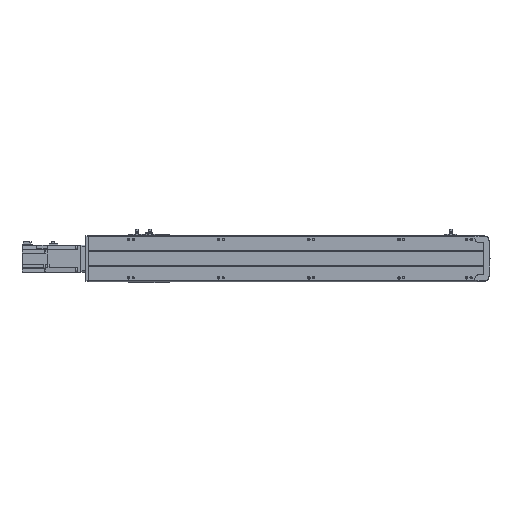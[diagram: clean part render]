
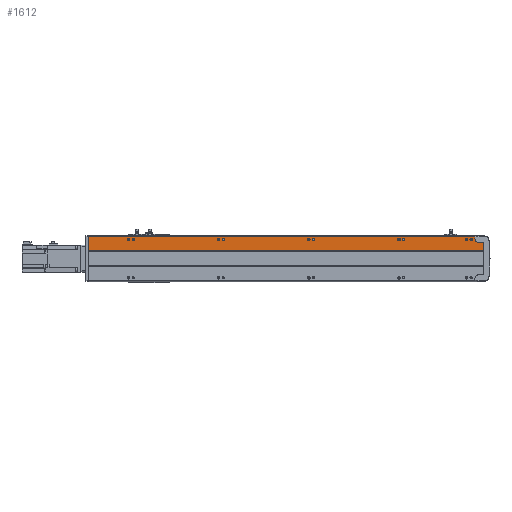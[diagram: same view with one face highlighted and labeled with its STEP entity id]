
A CAD part, front view. The second image highlights one B-rep face of the part: STEP entity #1612.
In plain terms, the highlighted planar face has unit normal (0, -1, 0).
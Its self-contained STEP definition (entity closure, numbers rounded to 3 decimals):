
#1612 = ADVANCED_FACE( '', ( #3574, #3575, #3576, #3577, #3578, #3579, #3580, #3581, #3582, #3583, #3584 ), #3585, .F. );
#3574 = FACE_BOUND( '', #5947, .T. );
#3575 = FACE_BOUND( '', #5948, .T. );
#3576 = FACE_BOUND( '', #5949, .T. );
#3577 = FACE_BOUND( '', #5950, .T. );
#3578 = FACE_BOUND( '', #5951, .T. );
#3579 = FACE_BOUND( '', #5952, .T. );
#3580 = FACE_BOUND( '', #5953, .T. );
#3581 = FACE_BOUND( '', #5954, .T. );
#3582 = FACE_BOUND( '', #5955, .T. );
#3583 = FACE_BOUND( '', #5956, .T. );
#3584 = FACE_OUTER_BOUND( '', #5957, .T. );
#3585 = PLANE( '', #5958 );
#5947 = EDGE_LOOP( '', ( #10377 ) );
#5948 = EDGE_LOOP( '', ( #10378 ) );
#5949 = EDGE_LOOP( '', ( #10379 ) );
#5950 = EDGE_LOOP( '', ( #10380 ) );
#5951 = EDGE_LOOP( '', ( #10381 ) );
#5952 = EDGE_LOOP( '', ( #10382 ) );
#5953 = EDGE_LOOP( '', ( #10383 ) );
#5954 = EDGE_LOOP( '', ( #10384 ) );
#5955 = EDGE_LOOP( '', ( #10385 ) );
#5956 = EDGE_LOOP( '', ( #10386 ) );
#5957 = EDGE_LOOP( '', ( #10387, #10388, #10389, #10390, #10391, #10392, #10393 ) );
#5958 = AXIS2_PLACEMENT_3D( '', #10394, #10395, #10396 );
#10377 = ORIENTED_EDGE( '', *, *, #15242, .F. );
#10378 = ORIENTED_EDGE( '', *, *, #14867, .F. );
#10379 = ORIENTED_EDGE( '', *, *, #15243, .F. );
#10380 = ORIENTED_EDGE( '', *, *, #15244, .F. );
#10381 = ORIENTED_EDGE( '', *, *, #15245, .F. );
#10382 = ORIENTED_EDGE( '', *, *, #15246, .F. );
#10383 = ORIENTED_EDGE( '', *, *, #15247, .F. );
#10384 = ORIENTED_EDGE( '', *, *, #15248, .F. );
#10385 = ORIENTED_EDGE( '', *, *, #15249, .F. );
#10386 = ORIENTED_EDGE( '', *, *, #13941, .F. );
#10387 = ORIENTED_EDGE( '', *, *, #15250, .T. );
#10388 = ORIENTED_EDGE( '', *, *, #14158, .T. );
#10389 = ORIENTED_EDGE( '', *, *, #13781, .T. );
#10390 = ORIENTED_EDGE( '', *, *, #15251, .F. );
#10391 = ORIENTED_EDGE( '', *, *, #14591, .T. );
#10392 = ORIENTED_EDGE( '', *, *, #15252, .T. );
#10393 = ORIENTED_EDGE( '', *, *, #15253, .T. );
#10394 = CARTESIAN_POINT( '', ( 897., 0., 48.37 ) );
#10395 = DIRECTION( '', ( 0., 1., 0. ) );
#10396 = DIRECTION( '', ( 0., 0., 1. ) );
#13781 = EDGE_CURVE( '', #16478, #16476, #16479, .T. );
#13941 = EDGE_CURVE( '', #16763, #16763, #16764, .T. );
#14158 = EDGE_CURVE( '', #17132, #16478, #17135, .T. );
#14591 = EDGE_CURVE( '', #17836, #17846, #17848, .T. );
#14867 = EDGE_CURVE( '', #18265, #18265, #18266, .T. );
#15242 = EDGE_CURVE( '', #18800, #18800, #18801, .T. );
#15243 = EDGE_CURVE( '', #18802, #18802, #18803, .T. );
#15244 = EDGE_CURVE( '', #18804, #18804, #18805, .T. );
#15245 = EDGE_CURVE( '', #18806, #18806, #18807, .T. );
#15246 = EDGE_CURVE( '', #18808, #18808, #18809, .T. );
#15247 = EDGE_CURVE( '', #18810, #18810, #18811, .T. );
#15248 = EDGE_CURVE( '', #18812, #18812, #18813, .T. );
#15249 = EDGE_CURVE( '', #18814, #18814, #18815, .T. );
#15250 = EDGE_CURVE( '', #18816, #17132, #18817, .T. );
#15251 = EDGE_CURVE( '', #17836, #16476, #18818, .T. );
#15252 = EDGE_CURVE( '', #17846, #18819, #18820, .T. );
#15253 = EDGE_CURVE( '', #18819, #18816, #18821, .T. );
#16476 = VERTEX_POINT( '', #20373 );
#16478 = VERTEX_POINT( '', #20376 );
#16479 = LINE( '', #20377, #20378 );
#16763 = VERTEX_POINT( '', #20809 );
#16764 = CIRCLE( '', #20810, 2.75 );
#17132 = VERTEX_POINT( '', #21342 );
#17135 = LINE( '', #21346, #21347 );
#17836 = VERTEX_POINT( '', #22379 );
#17846 = VERTEX_POINT( '', #22394 );
#17848 = LINE( '', #22397, #22398 );
#18265 = VERTEX_POINT( '', #22989 );
#18266 = CIRCLE( '', #22990, 2.5 );
#18800 = VERTEX_POINT( '', #23822 );
#18801 = CIRCLE( '', #23823, 2.5 );
#18802 = VERTEX_POINT( '', #23824 );
#18803 = CIRCLE( '', #23825, 2.5 );
#18804 = VERTEX_POINT( '', #23826 );
#18805 = CIRCLE( '', #23827, 2.5 );
#18806 = VERTEX_POINT( '', #23828 );
#18807 = CIRCLE( '', #23829, 2.5 );
#18808 = VERTEX_POINT( '', #23830 );
#18809 = CIRCLE( '', #23831, 2.75 );
#18810 = VERTEX_POINT( '', #23832 );
#18811 = CIRCLE( '', #23833, 2.75 );
#18812 = VERTEX_POINT( '', #23834 );
#18813 = CIRCLE( '', #23835, 2.75 );
#18814 = VERTEX_POINT( '', #23836 );
#18815 = CIRCLE( '', #23837, 2.75 );
#18816 = VERTEX_POINT( '', #23838 );
#18817 = LINE( '', #23839, #23840 );
#18818 = LINE( '', #23841, #23842 );
#18819 = VERTEX_POINT( '', #23843 );
#18820 = LINE( '', #23844, #23845 );
#18821 = CIRCLE( '', #23846, 10. );
#20373 = CARTESIAN_POINT( '', ( 6., 0., 17. ) );
#20376 = CARTESIAN_POINT( '', ( 6., 0., 48.37 ) );
#20377 = CARTESIAN_POINT( '', ( 6., 0., 51. ) );
#20378 = VECTOR( '', #25608, 1000. );
#20809 = CARTESIAN_POINT( '', ( 845., 0., 39.75 ) );
#20810 = AXIS2_PLACEMENT_3D( '', #25801, #25802, #25803 );
#21342 = CARTESIAN_POINT( '', ( 863.5, 0., 48.37 ) );
#21346 = CARTESIAN_POINT( '', ( 897., 0., 48.37 ) );
#21347 = VECTOR( '', #26056, 1000. );
#22379 = CARTESIAN_POINT( '', ( 883.5, 0., 17. ) );
#22394 = CARTESIAN_POINT( '', ( 883.5, 0., 35.5 ) );
#22397 = CARTESIAN_POINT( '', ( 883.5, 0., -35.5 ) );
#22398 = VECTOR( '', #26592, 1000. );
#22989 = CARTESIAN_POINT( '', ( 705., 0., 40. ) );
#22990 = AXIS2_PLACEMENT_3D( '', #26893, #26894, #26895 );
#23822 = CARTESIAN_POINT( '', ( 105., 0., 40. ) );
#23823 = AXIS2_PLACEMENT_3D( '', #27332, #27333, #27334 );
#23824 = CARTESIAN_POINT( '', ( 505., 0., 40. ) );
#23825 = AXIS2_PLACEMENT_3D( '', #27335, #27336, #27337 );
#23826 = CARTESIAN_POINT( '', ( 305., 0., 40. ) );
#23827 = AXIS2_PLACEMENT_3D( '', #27338, #27339, #27340 );
#23828 = CARTESIAN_POINT( '', ( 855., 0., 40. ) );
#23829 = AXIS2_PLACEMENT_3D( '', #27341, #27342, #27343 );
#23830 = CARTESIAN_POINT( '', ( 95., 0., 39.75 ) );
#23831 = AXIS2_PLACEMENT_3D( '', #27344, #27345, #27346 );
#23832 = CARTESIAN_POINT( '', ( 695., 0., 39.75 ) );
#23833 = AXIS2_PLACEMENT_3D( '', #27347, #27348, #27349 );
#23834 = CARTESIAN_POINT( '', ( 495., 0., 39.75 ) );
#23835 = AXIS2_PLACEMENT_3D( '', #27350, #27351, #27352 );
#23836 = CARTESIAN_POINT( '', ( 295., 0., 39.75 ) );
#23837 = AXIS2_PLACEMENT_3D( '', #27353, #27354, #27355 );
#23838 = CARTESIAN_POINT( '', ( 863.5, 0., 45.5 ) );
#23839 = CARTESIAN_POINT( '', ( 863.5, 0., 45.5 ) );
#23840 = VECTOR( '', #27356, 1000. );
#23841 = CARTESIAN_POINT( '', ( 897., 0., 17. ) );
#23842 = VECTOR( '', #27357, 1000. );
#23843 = CARTESIAN_POINT( '', ( 873.5, 0., 35.5 ) );
#23844 = CARTESIAN_POINT( '', ( 883.5, 0., 35.5 ) );
#23845 = VECTOR( '', #27358, 1000. );
#23846 = AXIS2_PLACEMENT_3D( '', #27359, #27360, #27361 );
#25608 = DIRECTION( '', ( 0., 0., -1. ) );
#25801 = CARTESIAN_POINT( '', ( 845., 0., 42.5 ) );
#25802 = DIRECTION( '', ( 0., -1., 0. ) );
#25803 = DIRECTION( '', ( 0., 0., -1. ) );
#26056 = DIRECTION( '', ( -1., 0., 0. ) );
#26592 = DIRECTION( '', ( 0., 0., 1. ) );
#26893 = CARTESIAN_POINT( '', ( 705., 0., 42.5 ) );
#26894 = DIRECTION( '', ( 0., -1., 0. ) );
#26895 = DIRECTION( '', ( 0., 0., -1. ) );
#27332 = CARTESIAN_POINT( '', ( 105., 0., 42.5 ) );
#27333 = DIRECTION( '', ( 0., -1., 0. ) );
#27334 = DIRECTION( '', ( 0., 0., -1. ) );
#27335 = CARTESIAN_POINT( '', ( 505., 0., 42.5 ) );
#27336 = DIRECTION( '', ( 0., -1., 0. ) );
#27337 = DIRECTION( '', ( 0., 0., -1. ) );
#27338 = CARTESIAN_POINT( '', ( 305., 0., 42.5 ) );
#27339 = DIRECTION( '', ( 0., -1., 0. ) );
#27340 = DIRECTION( '', ( 0., 0., -1. ) );
#27341 = CARTESIAN_POINT( '', ( 855., 0., 42.5 ) );
#27342 = DIRECTION( '', ( 0., -1., 0. ) );
#27343 = DIRECTION( '', ( 0., 0., -1. ) );
#27344 = CARTESIAN_POINT( '', ( 95., 0., 42.5 ) );
#27345 = DIRECTION( '', ( 0., -1., 0. ) );
#27346 = DIRECTION( '', ( 0., 0., -1. ) );
#27347 = CARTESIAN_POINT( '', ( 695., 0., 42.5 ) );
#27348 = DIRECTION( '', ( 0., -1., 0. ) );
#27349 = DIRECTION( '', ( 0., 0., -1. ) );
#27350 = CARTESIAN_POINT( '', ( 495., 0., 42.5 ) );
#27351 = DIRECTION( '', ( 0., -1., 0. ) );
#27352 = DIRECTION( '', ( 0., 0., -1. ) );
#27353 = CARTESIAN_POINT( '', ( 295., 0., 42.5 ) );
#27354 = DIRECTION( '', ( 0., -1., 0. ) );
#27355 = DIRECTION( '', ( 0., 0., -1. ) );
#27356 = DIRECTION( '', ( 0., 0., 1. ) );
#27357 = DIRECTION( '', ( -1., 0., 0. ) );
#27358 = DIRECTION( '', ( -1., 0., 0. ) );
#27359 = CARTESIAN_POINT( '', ( 873.5, 0., 45.5 ) );
#27360 = DIRECTION( '', ( 0., 1., 0. ) );
#27361 = DIRECTION( '', ( 1., 0., 0. ) );
